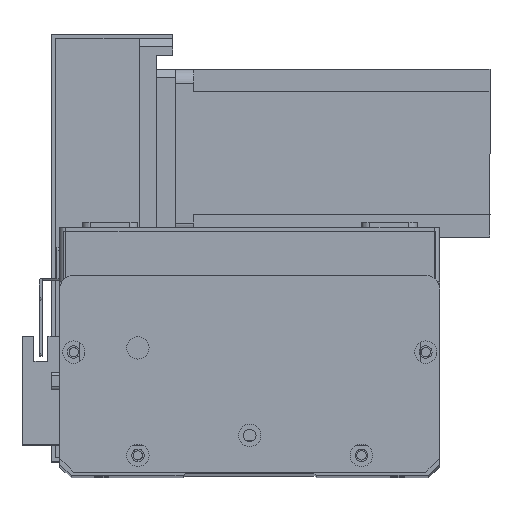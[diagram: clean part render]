
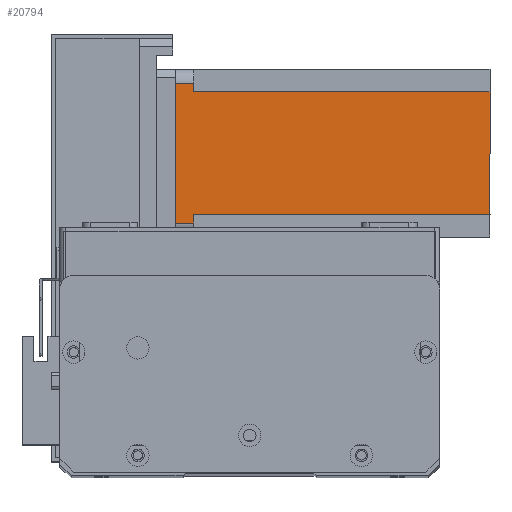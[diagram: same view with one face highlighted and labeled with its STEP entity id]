
A CAD part, top view. The second image highlights one B-rep face of the part: STEP entity #20794.
In plain terms, the highlighted planar face has unit normal (0, 0, 1) as drawn and (0, -1, 0) by its records, which use the part's own axes.
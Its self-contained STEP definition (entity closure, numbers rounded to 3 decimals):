
#6 = ORIENTED_EDGE ( 'NONE', *, *, #7223, .T. ) ;
#526 = PLANE ( 'NONE',  #7419 ) ;
#907 = CARTESIAN_POINT ( 'NONE',  ( 5., 0., -6.5 ) ) ;
#1338 = CARTESIAN_POINT ( 'NONE',  ( 52., 0., -6.5 ) ) ;
#1508 = CARTESIAN_POINT ( 'NONE',  ( 52., 0., -6.5 ) ) ;
#1829 = EDGE_CURVE ( 'NONE', #19243, #15732, #9232, .T. ) ;
#1974 = CARTESIAN_POINT ( 'NONE',  ( 8., 0., -6.5 ) ) ;
#2222 = EDGE_LOOP ( 'NONE', ( #8805, #12757, #12189, #19717, #26290, #5389, #6, #6393 ) ) ;
#2503 = CARTESIAN_POINT ( 'NONE',  ( 8., 0., -6.5 ) ) ;
#2674 = DIRECTION ( 'NONE',  ( 0., 0., 1. ) ) ;
#2743 = DIRECTION ( 'NONE',  ( 0., -1., 0. ) ) ;
#2959 = VECTOR ( 'NONE', #15213, 1000. ) ;
#2996 = VECTOR ( 'NONE', #2674, 1000. ) ;
#3586 = CARTESIAN_POINT ( 'NONE',  ( 52., 0., -112.5 ) ) ;
#3688 = EDGE_CURVE ( 'NONE', #20909, #9858, #7057, .T. ) ;
#5389 = ORIENTED_EDGE ( 'NONE', *, *, #3688, .F. ) ;
#6393 = ORIENTED_EDGE ( 'NONE', *, *, #23569, .F. ) ;
#7057 = LINE ( 'NONE', #27568, #24669 ) ;
#7172 = VECTOR ( 'NONE', #21405, 1000. ) ;
#7223 = EDGE_CURVE ( 'NONE', #20909, #15246, #10269, .T. ) ;
#7419 = AXIS2_PLACEMENT_3D ( 'NONE', #13654, #2743, #18205 ) ;
#8599 = DIRECTION ( 'NONE',  ( 0., 0., -1. ) ) ;
#8805 = ORIENTED_EDGE ( 'NONE', *, *, #11429, .T. ) ;
#8864 = LINE ( 'NONE', #18118, #2996 ) ;
#9232 = LINE ( 'NONE', #19921, #25478 ) ;
#9858 = VERTEX_POINT ( 'NONE', #2503 ) ;
#10269 = LINE ( 'NONE', #25001, #14770 ) ;
#11429 = EDGE_CURVE ( 'NONE', #28191, #22221, #19622, .T. ) ;
#12052 = DIRECTION ( 'NONE',  ( 0., 0., 1. ) ) ;
#12189 = ORIENTED_EDGE ( 'NONE', *, *, #13755, .F. ) ;
#12757 = ORIENTED_EDGE ( 'NONE', *, *, #22494, .T. ) ;
#13654 = CARTESIAN_POINT ( 'NONE',  ( 0., 0., -112.5 ) ) ;
#13755 = EDGE_CURVE ( 'NONE', #19243, #25345, #27104, .T. ) ;
#14144 = CARTESIAN_POINT ( 'NONE',  ( 8., 0., -112.5 ) ) ;
#14334 = VECTOR ( 'NONE', #8599, 1000. ) ;
#14691 = VECTOR ( 'NONE', #20953, 1000. ) ;
#14770 = VECTOR ( 'NONE', #27234, 1000. ) ;
#15213 = DIRECTION ( 'NONE',  ( -1., 0., 0. ) ) ;
#15246 = VERTEX_POINT ( 'NONE', #3586 ) ;
#15732 = VERTEX_POINT ( 'NONE', #907 ) ;
#15797 = FACE_OUTER_BOUND ( 'NONE', #2222, .T. ) ;
#16518 = CARTESIAN_POINT ( 'NONE',  ( 0., 0., 0. ) ) ;
#17393 = CARTESIAN_POINT ( 'NONE',  ( 52., 0., -112.5 ) ) ;
#18118 = CARTESIAN_POINT ( 'NONE',  ( 55., 0., -112.5 ) ) ;
#18205 = DIRECTION ( 'NONE',  ( 0., 0., -1. ) ) ;
#18322 = CARTESIAN_POINT ( 'NONE',  ( 55., 0., 0. ) ) ;
#18472 = DIRECTION ( 'NONE',  ( 0., 0., -1. ) ) ;
#19243 = VERTEX_POINT ( 'NONE', #27428 ) ;
#19622 = LINE ( 'NONE', #1508, #7172 ) ;
#19717 = ORIENTED_EDGE ( 'NONE', *, *, #1829, .T. ) ;
#19921 = CARTESIAN_POINT ( 'NONE',  ( 5., 0., -112.5 ) ) ;
#20794 = ADVANCED_FACE ( 'NONE', ( #15797 ), #526, .T. ) ;
#20909 = VERTEX_POINT ( 'NONE', #14144 ) ;
#20953 = DIRECTION ( 'NONE',  ( 1., 0., 0. ) ) ;
#21127 = CARTESIAN_POINT ( 'NONE',  ( 55., 0., -6.5 ) ) ;
#21405 = DIRECTION ( 'NONE',  ( 1., 0., 0. ) ) ;
#21584 = LINE ( 'NONE', #17393, #14334 ) ;
#22221 = VERTEX_POINT ( 'NONE', #21127 ) ;
#22494 = EDGE_CURVE ( 'NONE', #22221, #25345, #8864, .T. ) ;
#22909 = EDGE_CURVE ( 'NONE', #9858, #15732, #26443, .T. ) ;
#23569 = EDGE_CURVE ( 'NONE', #28191, #15246, #21584, .T. ) ;
#24669 = VECTOR ( 'NONE', #12052, 1000. ) ;
#25001 = CARTESIAN_POINT ( 'NONE',  ( 0., 0., -112.5 ) ) ;
#25345 = VERTEX_POINT ( 'NONE', #18322 ) ;
#25478 = VECTOR ( 'NONE', #18472, 1000. ) ;
#26290 = ORIENTED_EDGE ( 'NONE', *, *, #22909, .F. ) ;
#26443 = LINE ( 'NONE', #1974, #2959 ) ;
#27104 = LINE ( 'NONE', #16518, #14691 ) ;
#27234 = DIRECTION ( 'NONE',  ( 1., 0., 0. ) ) ;
#27428 = CARTESIAN_POINT ( 'NONE',  ( 5., 0., 0. ) ) ;
#27568 = CARTESIAN_POINT ( 'NONE',  ( 8., 0., -112.5 ) ) ;
#28191 = VERTEX_POINT ( 'NONE', #1338 ) ;
